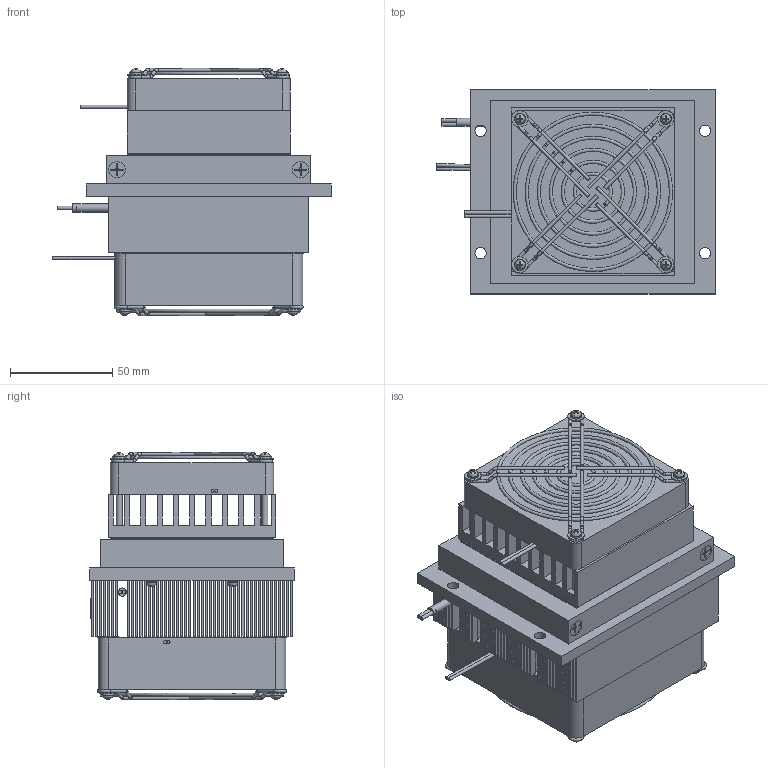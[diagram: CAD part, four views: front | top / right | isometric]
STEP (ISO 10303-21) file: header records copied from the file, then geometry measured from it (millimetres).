
FILE_DESCRIPTION(('STEP AP214'),'1');
FILE_NAME('HMC-17F-0500.stp','2026-03-16T23:38:26',(' '),(' '),'Spatial InterOp 3D',' ',' ');
FILE_SCHEMA(('AUTOMOTIVE_DESIGN { 1 0 10303 214 1 1 1 1 }'));
Length unit declared in the file: metre
Products named in the file (18): HMC-17F-0500; 皿ネジ; 樹脂枠; 冷却板; M3ネジ; 平ワッシャー; M3ネジ(ファン放熱側); M3ネジ(ファン温調側); ファンリード線(温調側); ファンリード線(放熱側); ファンモーター(温調側); ＤＣファンモーター; フィンガーガード(温調側); フィンガーガード(放熱側); ﾋｰﾄｼﾝｸ(放熱側); ﾋｰﾄｼﾝｸ(温調側); ペルチェリード線; 製造番号シール
Assembly tree (17 placements, depth 2):
  HMC-17F-0500
    皿ネジ
    樹脂枠
    冷却板
    M3ネジ
    平ワッシャー
    M3ネジ(ファン放熱側)
    M3ネジ(ファン温調側)
    ファンリード線(温調側)
    ファンリード線(放熱側)
    ファンモーター(温調側)
    ＤＣファンモーター
    フィンガーガード(温調側)
    フィンガーガード(放熱側)
    ﾋｰﾄｼﾝｸ(放熱側)
    ﾋｰﾄｼﾝｸ(温調側)
    ペルチェリード線
    製造番号シール
Bounding box: 136.48 x 100 x 121.15 mm (x, y, z)
Volume: 724062.8 mm3; surface area: 432681 mm2
Topology: 55 solids, 60 shells, 977 faces, 2498 edges, 1529 vertices
Faces by surface type: plane 734, cylinder 176, torus 55, bspline 12
Full cylindrical faces by diameter (mm): 1.5 x4, 1.6 x52, 1.8 x2, 1.85 x2, 3 x8, 3.2 x4, 3.4 x4, 3.5 x4, 4 x5, 4.3 x4, 5.5 x16, 6 x4, 8 x16, 10 x4
Entity records: 36038 total; most frequent: CARTESIAN_POINT 6110, DIRECTION 4260, ORIENTED_EDGE 4038, EDGE_CURVE 2033, VERTEX_POINT 1458, LINE 1442, VECTOR 1442, AXIS2_PLACEMENT_3D 1409
